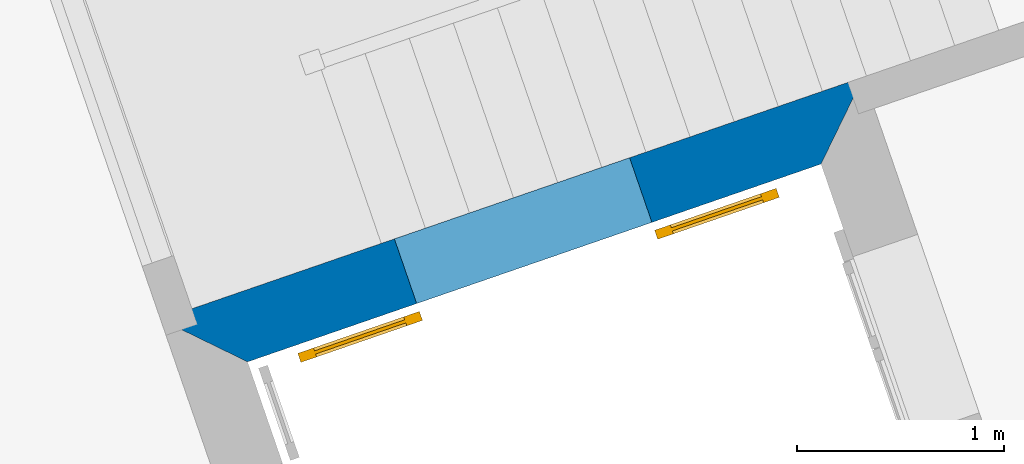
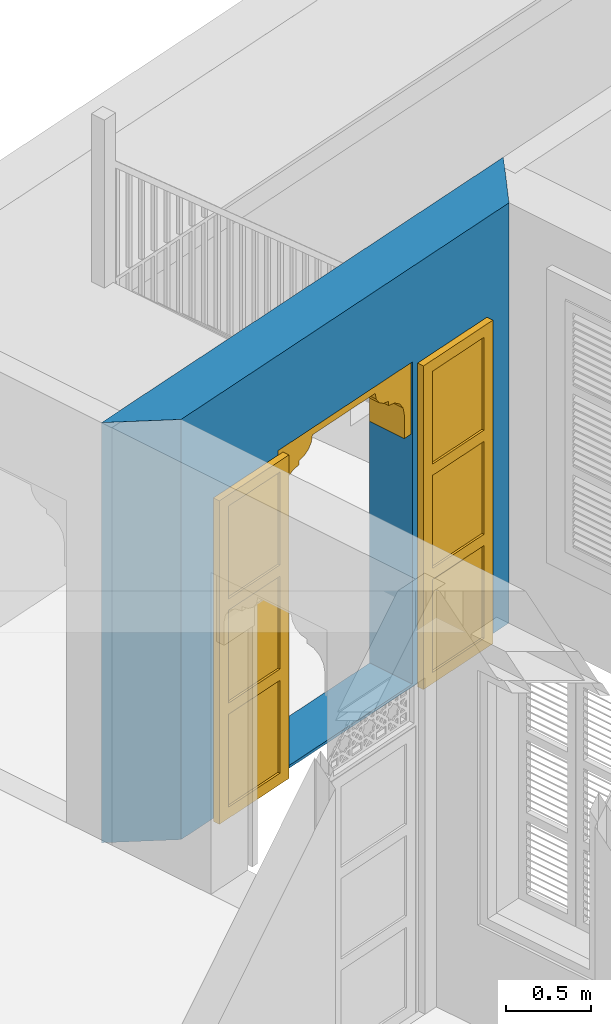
# One storey, part 12 of 16: 1 door, 1 wall, 1 opening.
"""IFC4 building model written with IfcOpenShell, lengths in metres."""

from ifc_helpers import new_model, si_unit, frame, origin, origin_with_axes, place, context, subcontext, project, spatial, polyline, outline, extrude, faceted_brep, source, transform, mapped, material, layer, layer_set, layer_usage, type_object, type_shapes, element, fill, save


model = new_model("IFC4")

# Units and contexts
model_context = context("Model", 3, world=origin_with_axes())
body_context = subcontext(model_context, "Body", "Model", "MODEL_VIEW")
ifc_project = project(units=[si_unit("PLANEANGLEUNIT", "RADIAN"), si_unit("MASSUNIT", "GRAM", prefix="KILO"), si_unit("FORCEUNIT", "NEWTON", prefix="KILO"), si_unit("LENGTHUNIT", "METRE"), si_unit("AREAUNIT", "SQUARE_METRE"), si_unit("VOLUMEUNIT", "CUBIC_METRE")], contexts=[model_context, model_context])

# Site, building, storey
site_placement = place(None, origin_with_axes())
site = spatial("IfcSite", under=ifc_project, at=site_placement, Name="Site plot-8", CompositionType="ELEMENT")
building_placement = place(None, origin_with_axes())
building = spatial("IfcBuilding", under=site, at=building_placement, Name="Building plot-8", CompositionType="ELEMENT")
storey_placement = place(None, origin_with_axes())
storey = spatial("IfcBuildingStorey", under=building, at=storey_placement, Name="plot-8 0", CompositionType="ELEMENT", Elevation=0.0)

# Wall, opening, door
ifc_material = material(Name="Masonry")
ifc_layer = layer(ifc_material, 0.33, ventilated=False)
ifc_layer_set = layer_set([ifc_layer], Name="exterior_0.08_0.25")
ifc_layer_usage = layer_usage(ifc_layer_set, "AXIS2", "POSITIVE", -0.25)
wall_type = type_object("IfcWallType", Name="exterior_0.08_0.25", PredefinedType="SOLIDWALL", material=ifc_layer_set)
wall_placement = place(storey_placement, frame((-11.6006556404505, 20.5643458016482, 0.0), z_axis=(0.0, 0.0, 1.0), x_axis=(0.945331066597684, 0.326112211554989, 0.0)))
wall = element("IfcWall", 1, at=wall_placement, inside=storey, type_object=wall_type, material=ifc_layer_usage, Name="exterior", context=body_context, shape_type="SweptSolid", body=[
    extrude(outline(polyline([(-0.0799999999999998, 0.0800000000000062), (0.249999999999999, -0.249999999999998), (3.1750971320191, -0.250000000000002), (3.50509713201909, 0.0799999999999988), (-0.0799999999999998, 0.0800000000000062)])), origin_with_axes(), (0.0, 0.0, 1.0), 3.0),
])
opening_placement = place(wall_placement, frame((1.11254856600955, 0.0, 0.02)))
opening = element("IfcOpeningElement", 2, at=opening_placement, cuts=wall, Name="My Opening", ObjectType="Opening", context=body_context, shape_type="SweptSolid", body=[
    extrude(outline(polyline([(0.0, -0.269999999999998), (1.2, -0.270000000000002), (1.2, 1.1), (-8.88178419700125e-16, 1.1), (0.0, -0.269999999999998)])), origin_with_axes(), (0.0, 0.0, 1.0), 2.3),
])
door_type = type_object("IfcDoorType", Name="arch-1200x2300", OperationType="SINGLE_SWING_LEFT", PredefinedType="NOTDEFINED")
shared_shape = source(origin(), body_context, "Body", "Brep", [
    faceted_brep([(-0.08, -0.02, 0.08), (-0.08, -0.02, 0.0), (-0.54, -0.02, 0.0), (-0.54, -0.02, 0.08), (-0.62, -0.02, 0.0), (-0.62, -0.02, 0.08), (-0.54, -0.035, 0.08), (-0.08, -0.035, 0.08), (0.0, -0.02, 0.08), (0.0, -0.02, 0.0), (-0.08, -0.066, 0.0), (-0.54, -0.066, 0.0), (-0.62, -0.066, 0.0), (-0.62, -0.066, 0.08), (-0.54, -0.02, 0.743333), (-0.62, -0.02, 0.743333), (-0.54, -0.035, 0.743333), (-0.08, -0.035, 0.743333), (-0.08, -0.02, 0.743333), (0.0, -0.02, 0.743333), (0.0, -0.066, 0.08), (0.0, -0.066, 0.0), (-0.54, -0.066, 0.08), (-0.08, -0.066, 0.08), (-0.62, -0.066, 0.743333), (-0.54, -0.02, 0.823333), (-0.62, -0.02, 0.823333), (0.0, -0.066, 0.743333), (0.0, -0.02, 0.823333), (-0.08, -0.02, 0.823333), (-0.08, -0.051, 0.08), (-0.54, -0.051, 0.08), (-0.54, -0.066, 0.743333), (-0.62, -0.066, 0.823333), (-0.54, -0.02, 1.486667), (-0.62, -0.02, 1.486667), (0.0, -0.066, 0.823333), (-0.08, -0.066, 0.743333), (0.0, -0.02, 1.486667), (-0.08, -0.02, 1.486667), (-0.08, -0.051, 0.743333), (-0.54, -0.051, 0.743333), (-0.54, -0.066, 0.823333), (-0.62, -0.066, 1.486667), (-0.54, -0.035, 0.823333), (-0.08, -0.035, 0.823333), (-0.54, -0.035, 1.486667), (-0.54, -0.02, 1.566667), (-0.62, -0.02, 1.566667), (0.0, -0.066, 1.486667), (-0.08, -0.066, 0.823333), (-0.08, -0.035, 1.486667), (0.0, -0.02, 1.566667), (-0.08, -0.02, 1.566667), (-0.54, -0.066, 1.486667), (-0.62, -0.066, 1.566667), (-0.54, -0.02, 2.23), (-0.62, -0.02, 2.23), (0.0, -0.066, 1.566667), (-0.08, -0.066, 1.486667), (0.0, -0.02, 2.23), (-0.08, -0.02, 2.23), (-0.08, -0.051, 0.823333), (-0.54, -0.051, 0.823333), (-0.54, -0.051, 1.486667), (-0.54, -0.066, 1.566667), (-0.62, -0.066, 2.23), (-0.54, -0.035, 1.566667), (-0.08, -0.035, 1.566667), (-0.54, -0.035, 2.23), (-0.54, -0.02, 2.31), (-0.62, -0.02, 2.31), (0.0, -0.066, 2.23), (-0.08, -0.066, 1.566667), (-0.08, -0.051, 1.486667), (-0.08, -0.035, 2.23), (0.0, -0.02, 2.31), (-0.08, -0.02, 2.31), (-0.54, -0.066, 2.23), (-0.62, -0.066, 2.31), (-0.54, -0.066, 2.31), (0.0, -0.066, 2.31), (-0.08, -0.066, 2.23), (-0.08, -0.066, 2.31), (-0.08, -0.051, 1.566667), (-0.54, -0.051, 1.566667), (-0.54, -0.051, 2.23), (-0.08, -0.051, 2.23), (1.74, -0.02, 0.08), (1.74, -0.02, 0.0), (1.28, -0.02, 0.0), (1.28, -0.02, 0.08), (1.82, -0.02, 0.08), (1.82, -0.02, 0.0), (1.28, -0.035, 0.08), (1.74, -0.035, 0.08), (1.2, -0.02, 0.0), (1.2, -0.02, 0.08), (1.74, -0.066, 0.0), (1.28, -0.066, 0.0), (1.82, -0.066, 0.08), (1.82, -0.066, 0.0), (1.82, -0.02, 0.743333), (1.74, -0.02, 0.743333), (1.74, -0.035, 0.743333), (1.28, -0.035, 0.743333), (1.28, -0.02, 0.743333), (1.2, -0.02, 0.743333), (1.2, -0.066, 0.0), (1.2, -0.066, 0.08), (1.28, -0.066, 0.08), (1.74, -0.066, 0.08), (1.82, -0.066, 0.743333), (1.82, -0.02, 0.823333), (1.74, -0.02, 0.823333), (1.2, -0.066, 0.743333), (1.28, -0.02, 0.823333), (1.2, -0.02, 0.823333), (1.74, -0.051, 0.08), (1.28, -0.051, 0.08), (1.74, -0.066, 0.743333), (1.82, -0.066, 0.823333), (1.82, -0.02, 1.486667), (1.74, -0.02, 1.486667), (1.2, -0.066, 0.823333), (1.28, -0.066, 0.743333), (1.28, -0.02, 1.486667), (1.2, -0.02, 1.486667), (1.28, -0.051, 0.743333), (1.74, -0.051, 0.743333), (1.74, -0.066, 0.823333), (1.82, -0.066, 1.486667), (1.28, -0.035, 0.823333), (1.74, -0.035, 0.823333), (1.74, -0.035, 1.486667), (1.82, -0.02, 1.566667), (1.74, -0.02, 1.566667), (1.2, -0.066, 1.486667), (1.28, -0.066, 0.823333), (1.28, -0.035, 1.486667), (1.28, -0.02, 1.566667), (1.2, -0.02, 1.566667), (1.74, -0.066, 1.486667), (1.82, -0.066, 1.566667), (1.82, -0.02, 2.23), (1.74, -0.02, 2.23), (1.2, -0.066, 1.566667), (1.28, -0.066, 1.486667), (1.28, -0.02, 2.23), (1.2, -0.02, 2.23), (1.74, -0.051, 0.823333), (1.28, -0.051, 0.823333), (1.74, -0.051, 1.486667), (1.74, -0.066, 1.566667), (1.82, -0.066, 2.23), (1.28, -0.035, 1.566667), (1.74, -0.035, 1.566667), (1.74, -0.035, 2.23), (1.82, -0.02, 2.31), (1.74, -0.02, 2.31), (1.2, -0.066, 2.23), (1.28, -0.066, 1.566667), (1.28, -0.051, 1.486667), (1.28, -0.035, 2.23), (1.28, -0.02, 2.31), (1.2, -0.02, 2.31), (1.74, -0.066, 2.23), (1.82, -0.066, 2.31), (1.74, -0.066, 2.31), (1.2, -0.066, 2.31), (1.28, -0.066, 2.23), (1.28, -0.066, 2.31), (1.74, -0.051, 1.566667), (1.28, -0.051, 1.566667), (1.74, -0.051, 2.23), (1.28, -0.051, 2.23), (1.2, 0.03, 1.78), (1.2, 0.03, 1.95), (1.14, 0.03, 1.95), (1.14, 0.03, 1.78), (1.14, 0.3, 1.95), (1.14, 0.3, 1.78), (1.2, 0.03, 2.12), (1.129, 0.03, 2.004), (1.2, 0.3, 1.78), (1.2, 0.3, 1.95), (1.129, 0.3, 2.004), (1.099, 0.03, 2.049), (1.2, 0.3, 2.12), (1.099, 0.3, 2.049), (1.054, 0.03, 2.079), (1.2, 0.3, 2.29), (1.2, 0.03, 2.29), (1.054, 0.3, 2.079), (1.0, 0.03, 2.09), (1.0, 0.03, 2.12), (0.954, 0.03, 2.129), (0.88, 0.3, 2.29), (0.88, 0.03, 2.29), (1.0, 0.3, 2.12), (0.954, 0.3, 2.129), (1.0, 0.3, 2.09), (0.915, 0.03, 2.155), (0.889, 0.3, 2.194), (0.88, 0.3, 2.24), (0.88, 0.03, 2.24), (0.889, 0.03, 2.194), (0.915, 0.3, 2.155), (0.06, 0.03, 1.78), (0.06, 0.03, 1.95), (0.0, 0.03, 1.95), (0.0, 0.03, 1.78), (0.06, 0.3, 1.78), (0.06, 0.3, 1.95), (0.071, 0.03, 2.004), (0.0, 0.03, 2.12), (0.0, 0.3, 1.95), (0.0, 0.3, 1.78), (0.071, 0.3, 2.004), (0.101, 0.03, 2.049), (0.0, 0.3, 2.12), (0.101, 0.3, 2.049), (0.146, 0.03, 2.079), (0.0, 0.03, 2.29), (0.0, 0.3, 2.29), (0.146, 0.3, 2.079), (0.2, 0.03, 2.12), (0.2, 0.03, 2.09), (0.246, 0.03, 2.129), (0.32, 0.03, 2.29), (0.32, 0.3, 2.29), (0.246, 0.3, 2.129), (0.2, 0.3, 2.12), (0.2, 0.3, 2.09), (0.285, 0.03, 2.155), (0.32, 0.3, 2.24), (0.311, 0.3, 2.194), (0.311, 0.03, 2.194), (0.32, 0.03, 2.24), (0.285, 0.3, 2.155)], [[[0, 1, 2, 3]], [[4, 5, 3, 2]], [[0, 3, 6, 7]], [[1, 0, 8, 9]], [[2, 1, 10, 11]], [[5, 4, 12, 13]], [[14, 3, 5, 15]], [[4, 2, 11, 12]], [[3, 14, 16, 6]], [[6, 16, 17, 7]], [[18, 0, 7, 17]], [[0, 18, 19, 8]], [[9, 8, 20, 21]], [[1, 9, 21, 10]], [[22, 11, 10, 23]], [[13, 12, 11, 22]], [[15, 5, 13, 24]], [[25, 14, 15, 26]], [[14, 18, 17, 16]], [[8, 19, 27, 20]], [[28, 19, 18, 29]], [[23, 10, 21, 20]], [[22, 23, 30, 31]], [[22, 32, 24, 13]], [[26, 15, 24, 33]], [[29, 18, 14, 25]], [[34, 25, 26, 35]], [[19, 28, 36, 27]], [[20, 27, 37, 23]], [[38, 28, 29, 39]], [[23, 37, 40, 30]], [[41, 31, 30, 40]], [[32, 22, 31, 41]], [[32, 42, 33, 24]], [[35, 26, 33, 43]], [[29, 25, 44, 45]], [[25, 34, 46, 44]], [[47, 34, 35, 48]], [[28, 38, 49, 36]], [[27, 36, 50, 37]], [[39, 29, 45, 51]], [[52, 38, 39, 53]], [[37, 32, 41, 40]], [[37, 50, 42, 32]], [[42, 54, 43, 33]], [[48, 35, 43, 55]], [[44, 46, 51, 45]], [[34, 39, 51, 46]], [[34, 47, 53, 39]], [[56, 47, 48, 57]], [[38, 52, 58, 49]], [[36, 49, 59, 50]], [[60, 52, 53, 61]], [[42, 50, 62, 63]], [[54, 42, 63, 64]], [[54, 65, 55, 43]], [[57, 48, 55, 66]], [[53, 47, 67, 68]], [[47, 56, 69, 67]], [[70, 56, 57, 71]], [[52, 60, 72, 58]], [[49, 58, 73, 59]], [[50, 59, 74, 62]], [[61, 53, 68, 75]], [[76, 60, 61, 77]], [[64, 63, 62, 74]], [[59, 54, 64, 74]], [[65, 54, 59, 73]], [[65, 78, 66, 55]], [[71, 57, 66, 79]], [[67, 69, 75, 68]], [[56, 61, 75, 69]], [[77, 61, 56, 70]], [[70, 71, 79, 80]], [[60, 76, 81, 72]], [[58, 72, 82, 73]], [[76, 77, 83, 81]], [[65, 73, 84, 85]], [[78, 65, 85, 86]], [[78, 80, 79, 66]], [[77, 70, 80, 83]], [[72, 81, 83, 82]], [[73, 82, 87, 84]], [[86, 85, 84, 87]], [[82, 78, 86, 87]], [[82, 83, 80, 78]], [[88, 89, 90, 91]], [[89, 88, 92, 93]], [[94, 95, 88, 91]], [[96, 97, 91, 90]], [[98, 99, 90, 89]], [[100, 101, 93, 92]], [[102, 92, 88, 103]], [[101, 98, 89, 93]], [[95, 104, 103, 88]], [[94, 105, 104, 95]], [[105, 94, 91, 106]], [[97, 107, 106, 91]], [[108, 109, 97, 96]], [[99, 108, 96, 90]], [[110, 99, 98, 111]], [[111, 98, 101, 100]], [[112, 100, 92, 102]], [[113, 102, 103, 114]], [[104, 105, 106, 103]], [[109, 115, 107, 97]], [[116, 106, 107, 117]], [[109, 108, 99, 110]], [[118, 119, 110, 111]], [[100, 112, 120, 111]], [[121, 112, 102, 113]], [[114, 103, 106, 116]], [[122, 113, 114, 123]], [[115, 124, 117, 107]], [[110, 125, 115, 109]], [[126, 116, 117, 127]], [[119, 128, 125, 110]], [[128, 119, 118, 129]], [[129, 118, 111, 120]], [[112, 121, 130, 120]], [[131, 121, 113, 122]], [[132, 133, 114, 116]], [[133, 134, 123, 114]], [[135, 122, 123, 136]], [[124, 137, 127, 117]], [[125, 138, 124, 115]], [[139, 132, 116, 126]], [[140, 126, 127, 141]], [[128, 129, 120, 125]], [[120, 130, 138, 125]], [[121, 131, 142, 130]], [[143, 131, 122, 135]], [[132, 139, 134, 133]], [[134, 139, 126, 123]], [[126, 140, 136, 123]], [[144, 135, 136, 145]], [[137, 146, 141, 127]], [[138, 147, 137, 124]], [[148, 140, 141, 149]], [[150, 151, 138, 130]], [[152, 150, 130, 142]], [[131, 143, 153, 142]], [[154, 143, 135, 144]], [[155, 156, 136, 140]], [[156, 157, 145, 136]], [[158, 144, 145, 159]], [[146, 160, 149, 141]], [[147, 161, 146, 137]], [[151, 162, 147, 138]], [[163, 155, 140, 148]], [[164, 148, 149, 165]], [[162, 151, 150, 152]], [[162, 152, 142, 147]], [[161, 147, 142, 153]], [[143, 154, 166, 153]], [[167, 154, 144, 158]], [[155, 163, 157, 156]], [[157, 163, 148, 145]], [[159, 145, 148, 164]], [[168, 167, 158, 159]], [[160, 169, 165, 149]], [[161, 170, 160, 146]], [[169, 171, 164, 165]], [[172, 173, 161, 153]], [[174, 172, 153, 166]], [[154, 167, 168, 166]], [[171, 168, 159, 164]], [[170, 171, 169, 160]], [[173, 175, 170, 161]], [[175, 173, 172, 174]], [[175, 174, 166, 170]], [[166, 168, 171, 170]], [[176, 177, 178, 179]], [[180, 181, 179, 178]], [[177, 182, 183, 178]], [[177, 176, 184, 185]], [[181, 184, 176, 179]], [[181, 180, 185, 184]], [[186, 180, 178, 183]], [[182, 187, 183]], [[182, 177, 185, 188]], [[180, 186, 188, 185]], [[189, 186, 183, 187]], [[182, 190, 187]], [[188, 191, 192, 182]], [[188, 186, 189]], [[193, 189, 187, 190]], [[194, 190, 182, 195]], [[182, 192, 196, 195]], [[192, 191, 197, 198]], [[199, 200, 191, 188]], [[188, 189, 193]], [[201, 193, 190, 194]], [[199, 201, 194, 195]], [[200, 199, 195, 196]], [[192, 202, 196]], [[191, 203, 204, 197]], [[192, 198, 205, 206]], [[207, 191, 200]], [[199, 188, 193, 201]], [[207, 200, 196, 202]], [[192, 206, 202]], [[204, 203, 206, 205]], [[203, 191, 207]], [[203, 207, 202, 206]], [[208, 209, 210, 211]], [[209, 208, 212, 213]], [[209, 214, 215, 210]], [[211, 210, 216, 217]], [[208, 211, 217, 212]], [[217, 216, 213, 212]], [[214, 209, 213, 218]], [[214, 219, 215]], [[220, 216, 210, 215]], [[216, 220, 218, 213]], [[219, 214, 218, 221]], [[219, 222, 215]], [[215, 223, 224, 220]], [[221, 218, 220]], [[222, 219, 221, 225]], [[226, 215, 222, 227]], [[226, 228, 223, 215]], [[229, 230, 224, 223]], [[220, 224, 231, 232]], [[225, 221, 220]], [[227, 222, 225, 233]], [[226, 227, 233, 232]], [[228, 226, 232, 231]], [[228, 234, 223]], [[230, 235, 236, 224]], [[237, 238, 229, 223]], [[231, 224, 239]], [[233, 225, 220, 232]], [[234, 228, 231, 239]], [[234, 237, 223]], [[238, 237, 236, 235]], [[239, 224, 236]], [[237, 234, 239, 236]], [[238, 235, 204, 205]], [[235, 230, 197, 204]], [[229, 238, 205, 198]], [[230, 229, 198, 197]]]),
])
type_shapes(door_type, [shared_shape])
door_placement = place(storey_placement, frame((-10.4608786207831, 20.6719220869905, 0.02), z_axis=(0.0, 0.0, 1.0), x_axis=(1.13439727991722, 0.391334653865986, 0.0)))
door = element("IfcDoor", 3, at=door_placement, inside=storey, type_object=door_type, Name="circulation sahn door", OverallHeight=2.3, OverallWidth=1.2, context=body_context, shape_type="MappedRepresentation", body=[
    mapped(shared_shape, transform((0.0, 0.0, 0.0), scale=1.0)),
])
fill(opening, door)

save(model, "model.ifc")
